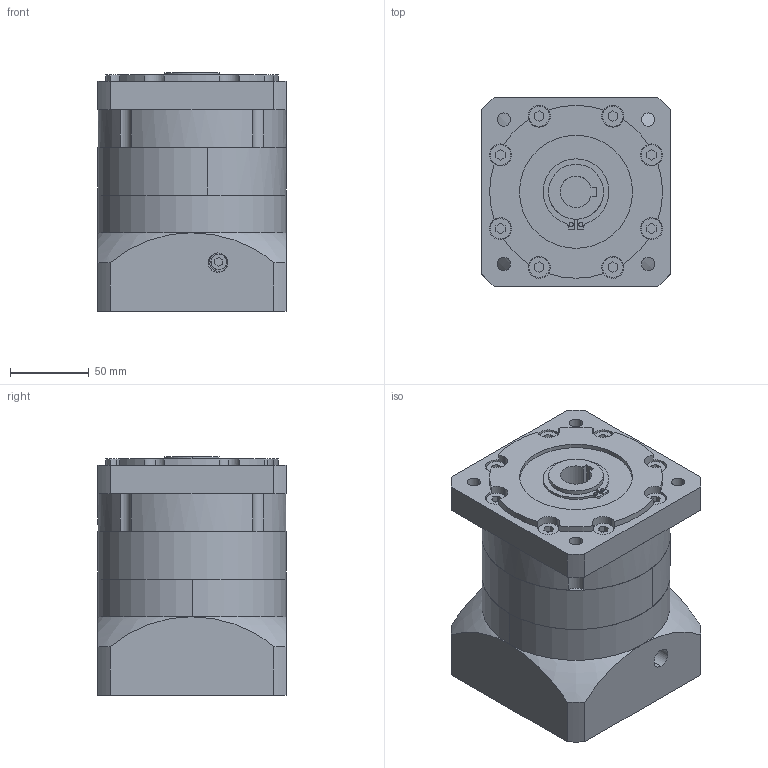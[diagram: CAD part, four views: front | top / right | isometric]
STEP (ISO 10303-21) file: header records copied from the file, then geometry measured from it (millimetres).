
FILE_DESCRIPTION (( 'STEP AP203' ), '1' );
FILE_NAME ('PBF120-L1-22-110-145.STEP', '2022-07-21T09:35:38', ( 'Windows User' ), ( 'P R C' ), 'SwSTEP 2.0', 'SolidWorks 2016', '' );
FILE_SCHEMA (( 'CONFIG_CONTROL_DESIGN' ));
Length unit declared in the file: millimetre
Products named in the file (7): PBF120 蟀諉啣--LR57; PBF120 κｳﾝﾈｦ-ﾓﾅｻｯ_ﾒｻｼｶﾄﾚｳﾝﾈｦ; PBF120 奻屳唳-謂怀堤-20-B6; PBF120 狟屳唳; 粣創-6007 40x68x15; PBF120-L1-22-110-145; 囀鞠褒蹟佪 M6x20
Assembly tree (6 placements, depth 2):
  PBF120-L1-22-110-145
    囀鞠褒蹟佪 M6x20
    PBF120 蟀諉啣--LR57
    PBF120 κｳﾝﾈｦ-ﾓﾅｻｯ_ﾒｻｼｶﾄﾚｳﾝﾈｦ
    PBF120 奻屳唳-謂怀堤-20-B6
    PBF120 狟屳唳
    粣創-6007 40x68x15
Bounding box: 120 x 120 x 152 mm (x, y, z)
Volume: 1624726.9 mm3; surface area: 234060.1 mm2
Topology: 6 solids, 14 shells, 1128 faces, 3050 edges, 2021 vertices
Faces by surface type: plane 630, cylinder 209, bspline 133, sphere 94, torus 52, cone 10
Entity records: 45508 total; most frequent: CARTESIAN_POINT 17241, ORIENTED_EDGE 6072, DIRECTION 5211, EDGE_CURVE 3036, VERTEX_POINT 2017, AXIS2_PLACEMENT_3D 1834, VECTOR 1543, LINE 1543
